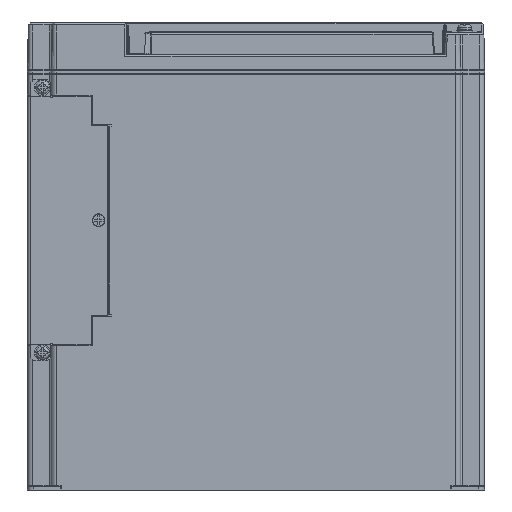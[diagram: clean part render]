
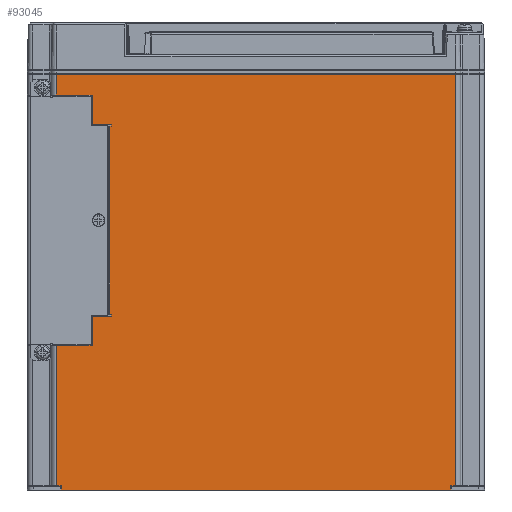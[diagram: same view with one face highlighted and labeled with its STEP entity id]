
A CAD part, front view. The second image highlights one B-rep face of the part: STEP entity #93045.
In plain terms, the highlighted planar face has unit normal (0, -1, 0).
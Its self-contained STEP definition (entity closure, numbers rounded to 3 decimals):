
#79794=DIRECTION('',(1.,0.,0.));
#79795=VECTOR('',#79794,2.5);
#79796=CARTESIAN_POINT('',(-90.,-65.,-232.8));
#79797=LINE('',#79796,#79795);
#82162=DIRECTION('',(1.,0.,0.));
#82163=VECTOR('',#82162,2.5);
#82164=CARTESIAN_POINT('',(108.5,-65.,-232.8));
#82165=LINE('',#82164,#82163);
#82170=DIRECTION('',(-1.,0.,0.));
#82171=VECTOR('',#82170,201.);
#82172=CARTESIAN_POINT('',(111.,-65.,-25.7));
#82173=LINE('',#82172,#82171);
#82174=DIRECTION('',(0.,0.,1.));
#82175=VECTOR('',#82174,2.2);
#82176=CARTESIAN_POINT('',(108.5,-65.,-235.));
#82177=LINE('',#82176,#82175);
#82178=DIRECTION('',(1.,0.,0.));
#82179=VECTOR('',#82178,18.);
#82180=CARTESIAN_POINT('',(-90.,-65.,-162.25));
#82181=LINE('',#82180,#82179);
#82182=DIRECTION('',(-1.,0.,0.));
#82183=VECTOR('',#82182,9.75);
#82184=CARTESIAN_POINT('',(-62.25,-65.,-147.5));
#82185=LINE('',#82184,#82183);
#82186=DIRECTION('',(0.,0.,-1.));
#82187=VECTOR('',#82186,1.);
#82188=CARTESIAN_POINT('',(-62.25,-65.,-146.5));
#82189=LINE('',#82188,#82187);
#82190=DIRECTION('',(-1.,0.,0.));
#82191=VECTOR('',#82190,0.762);
#82192=CARTESIAN_POINT('',(-62.25,-65.,-146.5));
#82193=LINE('',#82192,#82191);
#82194=DIRECTION('',(0.,0.,-1.));
#82195=VECTOR('',#82194,94.5);
#82196=CARTESIAN_POINT('',(-63.012,-65.,-52.));
#82197=LINE('',#82196,#82195);
#82198=DIRECTION('',(1.,0.,0.));
#82199=VECTOR('',#82198,0.762);
#82200=CARTESIAN_POINT('',(-63.012,-65.,-52.));
#82201=LINE('',#82200,#82199);
#82202=DIRECTION('',(0.,0.,-1.));
#82203=VECTOR('',#82202,1.);
#82204=CARTESIAN_POINT('',(-62.25,-65.,-51.));
#82205=LINE('',#82204,#82203);
#82206=DIRECTION('',(1.,0.,0.));
#82207=VECTOR('',#82206,9.75);
#82208=CARTESIAN_POINT('',(-72.,-65.,-51.));
#82209=LINE('',#82208,#82207);
#82210=DIRECTION('',(1.,0.,0.));
#82211=VECTOR('',#82210,18.);
#82212=CARTESIAN_POINT('',(-90.,-65.,-36.25));
#82213=LINE('',#82212,#82211);
#82223=DIRECTION('',(0.,0.,-1.));
#82224=VECTOR('',#82223,207.1);
#82225=CARTESIAN_POINT('',(111.,-65.,-25.7));
#82226=LINE('',#82225,#82224);
#82273=DIRECTION('',(-1.,0.,0.));
#82274=VECTOR('',#82273,196.);
#82275=CARTESIAN_POINT('',(108.5,-65.,-235.));
#82276=LINE('',#82275,#82274);
#82281=DIRECTION('',(0.,0.,-1.));
#82282=VECTOR('',#82281,2.2);
#82283=CARTESIAN_POINT('',(-87.5,-65.,-232.8));
#82284=LINE('',#82283,#82282);
#82307=DIRECTION('',(0.,0.,1.));
#82308=VECTOR('',#82307,70.55);
#82309=CARTESIAN_POINT('',(-90.,-65.,-232.8));
#82310=LINE('',#82309,#82308);
#82553=DIRECTION('',(0.,0.,-1.));
#82554=VECTOR('',#82553,14.75);
#82555=CARTESIAN_POINT('',(-72.,-65.,-147.5));
#82556=LINE('',#82555,#82554);
#82761=DIRECTION('',(0.,0.,-1.));
#82762=VECTOR('',#82761,14.75);
#82763=CARTESIAN_POINT('',(-72.,-65.,-36.25));
#82764=LINE('',#82763,#82762);
#82817=DIRECTION('',(0.,0.,1.));
#82818=VECTOR('',#82817,10.55);
#82819=CARTESIAN_POINT('',(-90.,-65.,-36.25));
#82820=LINE('',#82819,#82818);
#85309=CARTESIAN_POINT('',(-72.,-65.,-51.));
#85311=VERTEX_POINT('',#85309);
#85312=CARTESIAN_POINT('',(108.5,-65.,-235.));
#85313=CARTESIAN_POINT('',(-87.5,-65.,-235.));
#85314=VERTEX_POINT('',#85312);
#85315=VERTEX_POINT('',#85313);
#85328=CARTESIAN_POINT('',(-90.,-65.,-36.25));
#85329=CARTESIAN_POINT('',(-72.,-65.,-36.25));
#85330=VERTEX_POINT('',#85328);
#85331=VERTEX_POINT('',#85329);
#85364=CARTESIAN_POINT('',(-90.,-65.,-162.25));
#85365=CARTESIAN_POINT('',(-72.,-65.,-162.25));
#85366=VERTEX_POINT('',#85364);
#85367=VERTEX_POINT('',#85365);
#85388=CARTESIAN_POINT('',(-62.25,-65.,-51.));
#85390=VERTEX_POINT('',#85388);
#85392=CARTESIAN_POINT('',(-72.,-65.,-147.5));
#85394=VERTEX_POINT('',#85392);
#85397=CARTESIAN_POINT('',(-62.25,-65.,-147.5));
#85399=VERTEX_POINT('',#85397);
#85404=CARTESIAN_POINT('',(-62.25,-65.,-52.));
#85406=VERTEX_POINT('',#85404);
#85412=CARTESIAN_POINT('',(-62.25,-65.,-146.5));
#85414=VERTEX_POINT('',#85412);
#85512=CARTESIAN_POINT('',(-63.012,-65.,-146.5));
#85514=VERTEX_POINT('',#85512);
#85518=CARTESIAN_POINT('',(-63.012,-65.,-52.));
#85519=VERTEX_POINT('',#85518);
#86815=CARTESIAN_POINT('',(-90.,-65.,-232.8));
#86817=VERTEX_POINT('',#86815);
#86824=CARTESIAN_POINT('',(-87.5,-65.,-232.8));
#86826=VERTEX_POINT('',#86824);
#86829=CARTESIAN_POINT('',(108.5,-65.,-232.8));
#86831=VERTEX_POINT('',#86829);
#86857=CARTESIAN_POINT('',(111.,-65.,-232.8));
#86859=VERTEX_POINT('',#86857);
#86876=CARTESIAN_POINT('',(111.,-65.,-25.7));
#86877=CARTESIAN_POINT('',(-90.,-65.,-25.7));
#86878=VERTEX_POINT('',#86876);
#86879=VERTEX_POINT('',#86877);
#93001=CARTESIAN_POINT('',(-122.5,-65.,-205.));
#93002=DIRECTION('',(0.,-1.,0.));
#93003=DIRECTION('',(0.,0.,-1.));
#93004=AXIS2_PLACEMENT_3D('',#93001,#93002,#93003);
#93005=PLANE('',#93004);
#93006=ORIENTED_EDGE('',*,*,#90142,.F.);
#93008=ORIENTED_EDGE('',*,*,#93007,.T.);
#93009=ORIENTED_EDGE('',*,*,#92953,.F.);
#93011=ORIENTED_EDGE('',*,*,#93010,.F.);
#93013=ORIENTED_EDGE('',*,*,#93012,.T.);
#93015=ORIENTED_EDGE('',*,*,#93014,.F.);
#93016=ORIENTED_EDGE('',*,*,#89715,.F.);
#93018=ORIENTED_EDGE('',*,*,#93017,.T.);
#93020=ORIENTED_EDGE('',*,*,#93019,.T.);
#93022=ORIENTED_EDGE('',*,*,#93021,.F.);
#93024=ORIENTED_EDGE('',*,*,#93023,.F.);
#93026=ORIENTED_EDGE('',*,*,#93025,.F.);
#93028=ORIENTED_EDGE('',*,*,#93027,.T.);
#93030=ORIENTED_EDGE('',*,*,#93029,.F.);
#93032=ORIENTED_EDGE('',*,*,#93031,.T.);
#93034=ORIENTED_EDGE('',*,*,#93033,.F.);
#93036=ORIENTED_EDGE('',*,*,#93035,.F.);
#93038=ORIENTED_EDGE('',*,*,#93037,.F.);
#93040=ORIENTED_EDGE('',*,*,#93039,.F.);
#93042=ORIENTED_EDGE('',*,*,#93041,.T.);
#93043=EDGE_LOOP('',(#93006,#93008,#93009,#93011,#93013,#93015,#93016,#93018,
#93020,#93022,#93024,#93026,#93028,#93030,#93032,#93034,#93036,#93038,#93040,
#93042));
#93044=FACE_OUTER_BOUND('',#93043,.F.);
#93045=ADVANCED_FACE('',(#93044),#93005,.T.);
#89715=EDGE_CURVE('',#86817,#86826,#79797,.T.);
#90142=EDGE_CURVE('',#86878,#86879,#82173,.T.);
#92953=EDGE_CURVE('',#86831,#86859,#82165,.T.);
#93007=EDGE_CURVE('',#86878,#86859,#82226,.T.);
#93010=EDGE_CURVE('',#85314,#86831,#82177,.T.);
#93012=EDGE_CURVE('',#85314,#85315,#82276,.T.);
#93014=EDGE_CURVE('',#86826,#85315,#82284,.T.);
#93017=EDGE_CURVE('',#86817,#85366,#82310,.T.);
#93019=EDGE_CURVE('',#85366,#85367,#82181,.T.);
#93021=EDGE_CURVE('',#85394,#85367,#82556,.T.);
#93023=EDGE_CURVE('',#85399,#85394,#82185,.T.);
#93025=EDGE_CURVE('',#85414,#85399,#82189,.T.);
#93027=EDGE_CURVE('',#85414,#85514,#82193,.T.);
#93029=EDGE_CURVE('',#85519,#85514,#82197,.T.);
#93031=EDGE_CURVE('',#85519,#85406,#82201,.T.);
#93033=EDGE_CURVE('',#85390,#85406,#82205,.T.);
#93035=EDGE_CURVE('',#85311,#85390,#82209,.T.);
#93037=EDGE_CURVE('',#85331,#85311,#82764,.T.);
#93039=EDGE_CURVE('',#85330,#85331,#82213,.T.);
#93041=EDGE_CURVE('',#85330,#86879,#82820,.T.);
